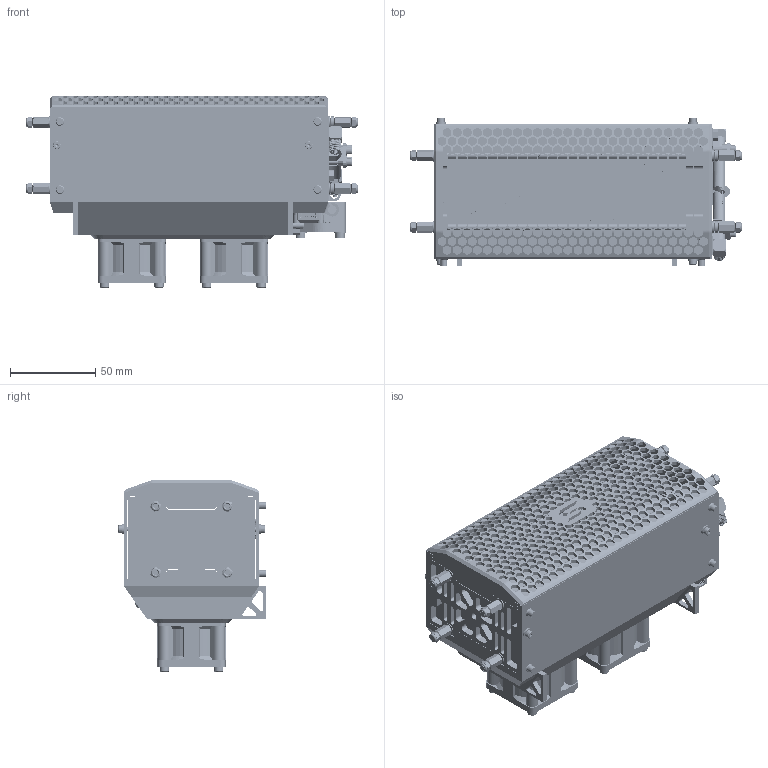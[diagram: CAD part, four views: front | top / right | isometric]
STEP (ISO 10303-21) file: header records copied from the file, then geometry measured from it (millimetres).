
FILE_DESCRIPTION (( 'STEP AP203' ), '1' );
FILE_NAME ('Protium 300_G_40_Assembly_External Download_Jun 2022.STEP', '2022-07-18T07:45:42', ( '' ), ( '' ), 'SwSTEP 2.0', 'SolidWorks 2021', '' );
FILE_SCHEMA (( 'CONFIG_CONTROL_DESIGN' ));
Products named in the file (34): Common_6 Pin Molex_530470610_Housing; socket head cap screw_am_B18.3.1M - 2.5 x 0.45 x 12 Hex SHCS -- 12NHX; FLY_G_40_Mask Cover_Jun 2022; Delta 40x40mm 12VDC; L-Shape Connector (Silicone)_M5; flat washer narrow_am_B18.22M - Plain washer, 2.5 mm, narrow; FLY - Current collector Alu 0.5mm; FLY v5_Manifold Module B_Jan 2022_Solid; FLY_G_40_Fan Casing_Jun 2022; D Sub Contact (Female)_09691817423; Protium 300_G_40_Assembly_External Download_Jun 2022; HFV_LHDX0536400B^LFMX0532750B 14v spike hold; Gas blocker_M5; FLY_G_40_U Casing_Jun 2022; socket head cap screw_am_B18.3.1M - 3 x 0.5 x 16 Hex SHCS -- 16NHX; socket head cap screw_am_B18.3.1M - 3 x 0.5 x 35 Hex SHCS -- 18NHX; M3 Disc washer; socket head cap screw_am_B18.3.1M - 2.5 x 0.45 x 10 Hex SHCS -- 10NHX; FLY_G_40_Solid Stack; socket head cap screw_am_B18.3.1M - 2 x 0.4 x 6 Hex SHCS -- 6NHX; D Sub 17W2 (Female)_09693015172; FLY v6_Manifold EP Solid_Jan 2022; Standoff Nut; FLY v6_Manifold EP Universal_Jan 2022; Header & Wire Housing Vertical 6P_530470610; M3 Lock Nut; flat washer narrow_am_B18.22M - Plain washer, 3 mm, narrow; FLY v5_Manifold Module A_Jan 2022_Solid; Lee Valve Mounting_Single; socket head cap screw_am_B18.3.1M - 2.5 x 0.45 x 6 Hex SHCS -- 6NHX; Long Nut 10mm; 195mm Rod; M3 washer; Pressure Sensor_MPX5100DP
Assembly tree (120 placements, depth 2):
  Protium 300_G_40_Assembly_External Download_Jun 2022
    FLY v6_Manifold EP Universal_Jan 2022
    FLY v6_Manifold EP Solid_Jan 2022
    Common_6 Pin Molex_530470610_Housing  x2
    Lee Valve Mounting_Single  x2
    FLY_G_40_Fan Casing_Jun 2022
    FLY_G_40_Mask Cover_Jun 2022
    FLY_G_40_U Casing_Jun 2022
    Gas blocker_M5  x2
    L-Shape Connector (Silicone)_M5  x2
    FLY - Current collector Alu 0.5mm  x2
    Header & Wire Housing Vertical 6P_530470610  x2
    Delta 40x40mm 12VDC  x2
    HFV_LHDX0536400B^LFMX0532750B 14v spike hold  x2
    D Sub 17W2 (Female)_09693015172
    D Sub Contact (Female)_09691817423  x2
    Pressure Sensor_MPX5100DP
    FLY v5_Manifold Module A_Jan 2022_Solid
    FLY v5_Manifold Module B_Jan 2022_Solid
    M3 Lock Nut  x8
    Long Nut 10mm  x8
    Standoff Nut  x2
    socket head cap screw_am_B18.3.1M - 2.5 x 0.45 x 12 Hex SHCS -- 12NHX  x4
    socket head cap screw_am_B18.3.1M - 3 x 0.5 x 35 Hex SHCS -- 18NHX  x8
    socket head cap screw_am_B18.3.1M - 2.5 x 0.45 x 10 Hex SHCS -- 10NHX  x10
    socket head cap screw_am_B18.3.1M - 2 x 0.4 x 6 Hex SHCS -- 6NHX  x4
    195mm Rod  x4
    socket head cap screw_am_B18.3.1M - 3 x 0.5 x 16 Hex SHCS -- 16NHX  x2
    socket head cap screw_am_B18.3.1M - 2.5 x 0.45 x 6 Hex SHCS -- 6NHX  x4
    M3 Disc washer  x16
    flat washer narrow_am_B18.22M - Plain washer, 2.5 mm, narrow  x8
    flat washer narrow_am_B18.22M - Plain washer, 3 mm, narrow  x2
    M3 washer  x12
    FLY_G_40_Solid Stack
Bounding box: 195 x 86.8 x 112.45 mm (x, y, z)
Volume: 576562.6 mm3; surface area: 264712 mm2
Topology: 125 solids, 130 shells, 14337 faces, 37705 edges, 23768 vertices
Faces by surface type: plane 5744, cylinder 4190, bspline 3354, cone 835, torus 182, sphere 32
Full cylindrical faces by diameter (mm): 1.2 x15, 1.4 x2, 1.5 x15, 1.6 x4, 1.981 x6, 2 x9, 2.1 x15, 2.3 x10, 2.4 x4, 2.5 x34, 2.6 x12, 2.7 x4, 2.769 x12, 3 x38, 3.1 x12, 3.12 x2, 3.14 x8, 3.2 x16, 3.4 x12, 3.5 x14, 3.6 x20, 3.68 x2, 3.8 x4, 4 x8, 4.04 x2, 4.067 x2, 4.1 x2, 4.5 x18, 4.72 x2, 4.82 x2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
Entity records: 443394 total; most frequent: CARTESIAN_POINT 190323, ORIENTED_EDGE 57474, DIRECTION 43540, EDGE_CURVE 28741, VERTEX_POINT 18919, AXIS2_PLACEMENT_3D 14749, LINE 14042, VECTOR 14042
